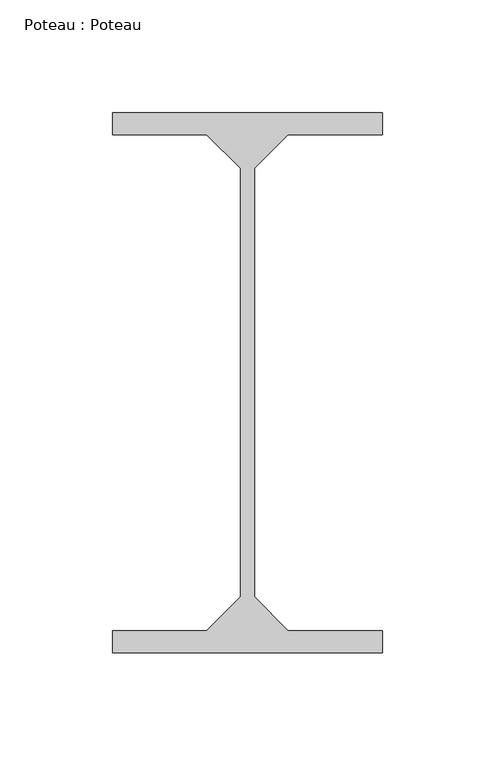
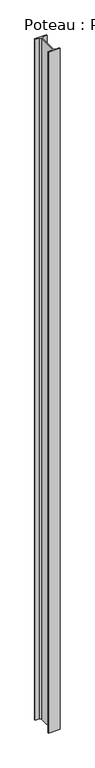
"""IFC4 building model written with IfcOpenShell, lengths in millimetres: beam geometry, Poteau : Poteau."""

from ifc_helpers import new_model, si_unit, frame, origin, place, context, project, spatial, polyline, outline, extrude, source, transform, mapped, element, save


def poteau_poteau_bcdf2e3d(model_context):
    return source(origin(), model_context, "Body", "SweptSolid", [
        extrude(outline(polyline([(11557.4999999, 95.0), (11557.4999999, 85.2), (11515.5999999, 85.2), (11500.5999999, 70.2), (11500.5999999, -120.2), (11515.5999999, -135.2), (11557.4999999, -135.2), (11557.4999999, -145.0), (11437.4999999, -145.0), (11437.4999999, -135.2), (11479.3999999, -135.2), (11494.3999999, -120.2), (11494.3999999, 70.2), (11479.3999999, 85.2), (11437.4999999, 85.2), (11437.4999999, 95.0), (11557.4999999, 95.0)])), frame((0.0, 0.0, -250.0), z_axis=(0.0, 0.0, 1.0), x_axis=(1.0, 0.0, 0.0)), (0.0, 0.0, 1.0), 7302.8384819),
    ])


if __name__ == "__main__":
    model = new_model("IFC4")
    model_context = context("Model", 3, world=origin())
    ifc_project = project(units=[si_unit("LENGTHUNIT", "METRE", prefix="MILLI")], contexts=[model_context])
    site = spatial("IfcSite", under=ifc_project)
    building = spatial("IfcBuilding", under=site)
    placement = place(None, origin())
    poteau_poteau_shape = poteau_poteau_bcdf2e3d(model_context)
    element("IfcBeam", 1, ObjectType="Poteau : Poteau", at=placement, inside=building, context=model_context, shape_type="MappedRepresentation", body=[
        mapped(poteau_poteau_shape, transform((0.0, 0.0, 0.0), x_axis=(1.0, 0.0, 0.0), y_axis=(0.0, 1.0, 0.0), z_axis=(0.0, 0.0, 1.0))),
    ])
    save(model, "model.ifc")
